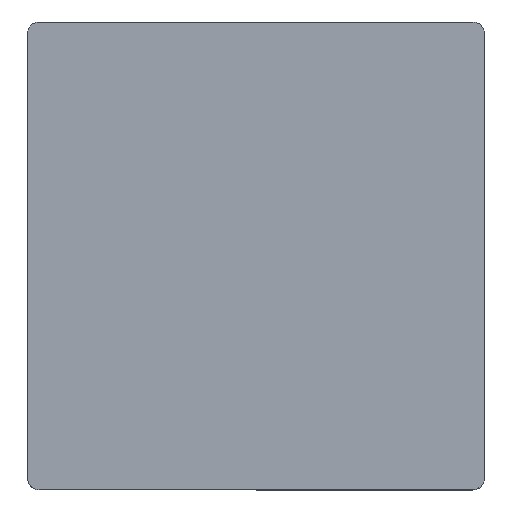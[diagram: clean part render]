
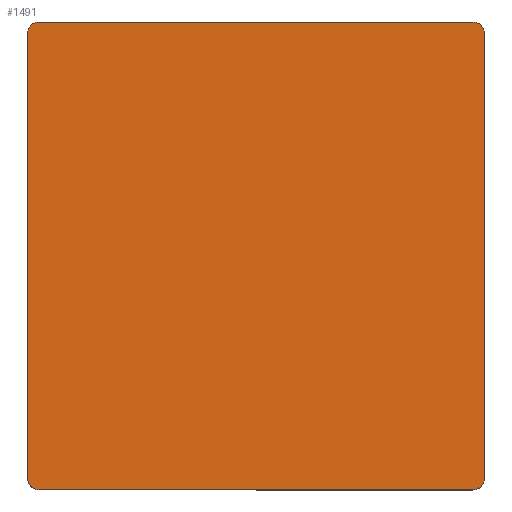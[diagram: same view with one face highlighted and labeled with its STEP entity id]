
A CAD part, top view. The second image highlights one B-rep face of the part: STEP entity #1491.
In plain terms, the highlighted planar face has unit normal (0, 0, 1).
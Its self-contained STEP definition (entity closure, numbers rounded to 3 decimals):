
#12=DIRECTION('',(1.0,0.0,0.0));
#1418=DIRECTION('',(-0.0,0.,1.0));
#1419=CARTESIAN_POINT('',(0.0,0.0,10.8));
#1420=AXIS2_PLACEMENT_3D('',#1419,#1418,#12);
#1421=PLANE('',#1420);
#1422=DIRECTION('',(1.0,0.,0.0));
#1423=VECTOR('',#1422,38.0);
#1424=CARTESIAN_POINT('',(1.0,41.0,10.8));
#1425=LINE('',#1424,#1423);
#1426=CARTESIAN_POINT('',(39.0,41.,10.8));
#1427=VERTEX_POINT('',#1426);
#1428=VERTEX_POINT('',#1424);
#1429=EDGE_CURVE('',#1428,#1427,#1425,.T.);
#1430=ORIENTED_EDGE('',*,*,#1429,.F.);
#1431=CARTESIAN_POINT('',(40.,40.,10.8));
#1432=CARTESIAN_POINT('',(40.,40.191,10.8));
#1433=CARTESIAN_POINT('',(39.854,40.561,10.8));
#1434=CARTESIAN_POINT('',(39.561,40.854,10.8));
#1435=CARTESIAN_POINT('',(39.191,41.0,10.8));
#1436=(BOUNDED_CURVE()B_SPLINE_CURVE(2,(#1426,#1435,#1434,#1433,#1432,#1431),.UNSPECIFIED.,.U.,.U.)B_SPLINE_CURVE_WITH_KNOTS((3,1,1,1,3),(0.0,0.25,0.5,0.75,1.0),.UNSPECIFIED.)CURVE()GEOMETRIC_REPRESENTATION_ITEM()RATIONAL_B_SPLINE_CURVE((1.0,0.927,0.854,0.854,0.927,1.0))REPRESENTATION_ITEM(''));
#1437=VERTEX_POINT('',#1431);
#1438=EDGE_CURVE('',#1427,#1437,#1436,.T.);
#1439=ORIENTED_EDGE('',*,*,#1438,.F.);
#1440=DIRECTION('',(0.,-1.0,0.));
#1441=VECTOR('',#1440,39.0);
#1442=LINE('',#1431,#1441);
#1443=CARTESIAN_POINT('',(40.0,1.,10.8));
#1444=VERTEX_POINT('',#1443);
#1445=EDGE_CURVE('',#1437,#1444,#1442,.T.);
#1446=ORIENTED_EDGE('',*,*,#1445,.F.);
#1447=CARTESIAN_POINT('',(39.,0.,10.8));
#1448=CARTESIAN_POINT('',(39.191,0.,10.8));
#1449=CARTESIAN_POINT('',(39.561,0.146,10.8));
#1450=CARTESIAN_POINT('',(39.854,0.439,10.8));
#1451=CARTESIAN_POINT('',(40.,0.809,10.8));
#1452=(BOUNDED_CURVE()B_SPLINE_CURVE(2,(#1443,#1451,#1450,#1449,#1448,#1447),.UNSPECIFIED.,.U.,.U.)B_SPLINE_CURVE_WITH_KNOTS((3,1,1,1,3),(0.0,0.25,0.5,0.75,1.0),.UNSPECIFIED.)CURVE()GEOMETRIC_REPRESENTATION_ITEM()RATIONAL_B_SPLINE_CURVE((1.0,0.927,0.854,0.854,0.927,1.0))REPRESENTATION_ITEM(''));
#1453=CARTESIAN_POINT('',(39.,0.,10.8));
#1454=VERTEX_POINT('',#1453);
#1455=EDGE_CURVE('',#1444,#1454,#1452,.T.);
#1456=ORIENTED_EDGE('',*,*,#1455,.F.);
#1457=DIRECTION('',(-1.0,0.,0.0));
#1458=VECTOR('',#1457,38.0);
#1459=LINE('',#1453,#1458);
#1460=CARTESIAN_POINT('',(1.,0.,10.8));
#1461=VERTEX_POINT('',#1460);
#1462=EDGE_CURVE('',#1454,#1461,#1459,.T.);
#1463=ORIENTED_EDGE('',*,*,#1462,.F.);
#1464=CARTESIAN_POINT('',(0.,1.0,10.8));
#1465=CARTESIAN_POINT('',(0.,0.809,10.8));
#1466=CARTESIAN_POINT('',(0.146,0.439,10.8));
#1467=CARTESIAN_POINT('',(0.439,0.146,10.8));
#1468=CARTESIAN_POINT('',(0.809,0.,10.8));
#1469=(BOUNDED_CURVE()B_SPLINE_CURVE(2,(#1460,#1468,#1467,#1466,#1465,#1464),.UNSPECIFIED.,.U.,.U.)B_SPLINE_CURVE_WITH_KNOTS((3,1,1,1,3),(0.0,0.25,0.5,0.75,1.0),.UNSPECIFIED.)CURVE()GEOMETRIC_REPRESENTATION_ITEM()RATIONAL_B_SPLINE_CURVE((1.0,0.927,0.854,0.854,0.927,1.0))REPRESENTATION_ITEM(''));
#1470=CARTESIAN_POINT('',(0.,1.0,10.8));
#1471=VERTEX_POINT('',#1470);
#1472=EDGE_CURVE('',#1461,#1471,#1469,.T.);
#1473=ORIENTED_EDGE('',*,*,#1472,.F.);
#1474=DIRECTION('',(0.,1.0,0.));
#1475=VECTOR('',#1474,39.0);
#1476=LINE('',#1470,#1475);
#1477=CARTESIAN_POINT('',(0.,40.0,10.8));
#1478=VERTEX_POINT('',#1477);
#1479=EDGE_CURVE('',#1471,#1478,#1476,.T.);
#1480=ORIENTED_EDGE('',*,*,#1479,.F.);
#1481=CARTESIAN_POINT('',(1.,41.0,10.8));
#1482=CARTESIAN_POINT('',(0.809,41.0,10.8));
#1483=CARTESIAN_POINT('',(0.439,40.854,10.8));
#1484=CARTESIAN_POINT('',(0.146,40.561,10.8));
#1485=CARTESIAN_POINT('',(0.0,40.191,10.8));
#1486=(BOUNDED_CURVE()B_SPLINE_CURVE(2,(#1477,#1485,#1484,#1483,#1482,#1481),.UNSPECIFIED.,.U.,.U.)B_SPLINE_CURVE_WITH_KNOTS((3,1,1,1,3),(0.0,0.25,0.5,0.75,1.0),.UNSPECIFIED.)CURVE()GEOMETRIC_REPRESENTATION_ITEM()RATIONAL_B_SPLINE_CURVE((1.0,0.927,0.854,0.854,0.927,1.0))REPRESENTATION_ITEM(''));
#1487=EDGE_CURVE('',#1478,#1428,#1486,.T.);
#1488=ORIENTED_EDGE('',*,*,#1487,.F.);
#1489=EDGE_LOOP('',(#1488,#1480,#1473,#1463,#1456,#1446,#1439,#1430));
#1490=FACE_BOUND('',#1489,.T.);
#1491=ADVANCED_FACE('',(#1490),#1421,.T.);
